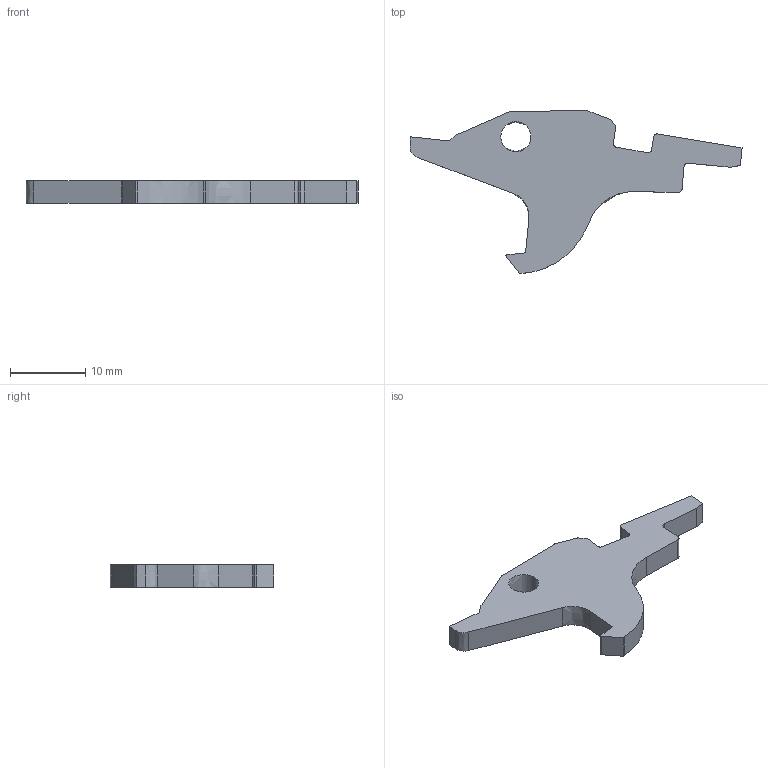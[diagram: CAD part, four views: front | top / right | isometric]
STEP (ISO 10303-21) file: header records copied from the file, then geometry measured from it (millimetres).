
FILE_DESCRIPTION((''),'2;1');
FILE_NAME('DISCONNECTOR_16','2004-08-03T',('AUDIBK'),(''),'PRO/ENGINEER BY PARAMETRIC TECHNOLOGY CORPORATION, 2004240','PRO/ENGINEER BY PARAMETRIC TECHNOLOGY CORPORATION, 2004240','');
FILE_SCHEMA(('CONFIG_CONTROL_DESIGN'));
Length unit declared in the file: inch
Products named in the file (1): DISCONNECTOR_16
Bounding box: 44.04 x 21.67 x 3.01 mm (x, y, z)
Volume: 1126.3 mm3; surface area: 1151.1 mm2
Topology: 1 solids, 1 shells, 41 faces, 117 edges, 78 vertices
Faces by surface type: bspline 41
Entity records: 1587 total; most frequent: CARTESIAN_POINT 575, ORIENTED_EDGE 234, DIRECTION 149, EDGE_CURVE 117, VECTOR 85, LINE 85, VERTEX_POINT 78, EDGE_LOOP 43
